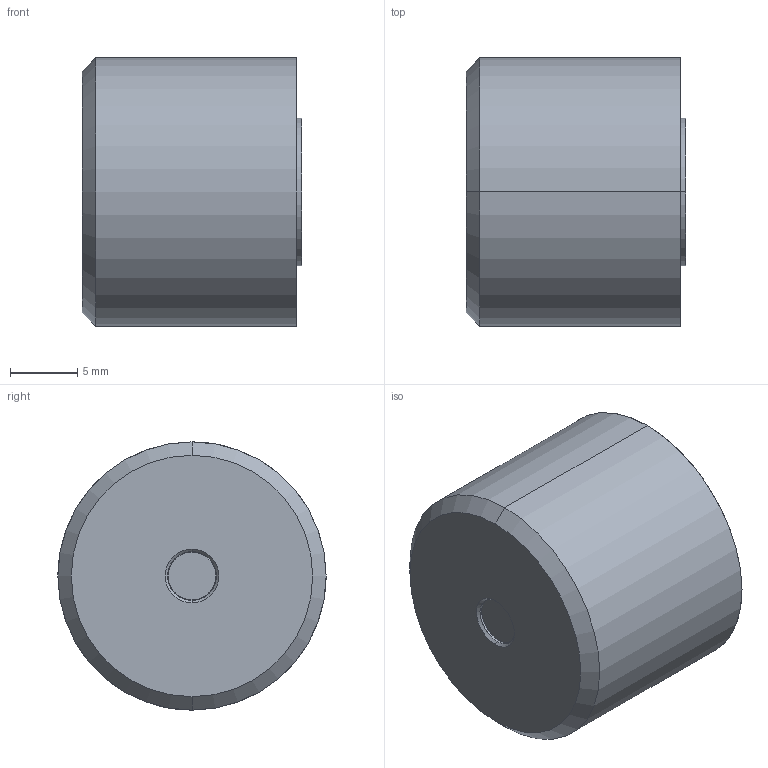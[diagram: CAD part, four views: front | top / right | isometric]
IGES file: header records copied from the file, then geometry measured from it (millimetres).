
Start section: START RECORD GO HERE.
Global section: file name: D374-20-A-DM-FA.igs; native system: DASSAULT SYSTEMES CATIA V5 R20 - www.3ds.com; preprocessor: CATIA Version 5 Release 20 ; author: Utente; organization: NB04-ASUS; date: 20210330.122602; units: millimetre
Bounding box: 16.35 x 20 x 20 mm (x, y, z)
Surface area: 2583.4 mm2 (no closed solid volume)
Topology: 0 solids, 0 shells, 222 faces, 1230 edges, 1224 vertices
Faces by surface type: plane 137, revolution 85
